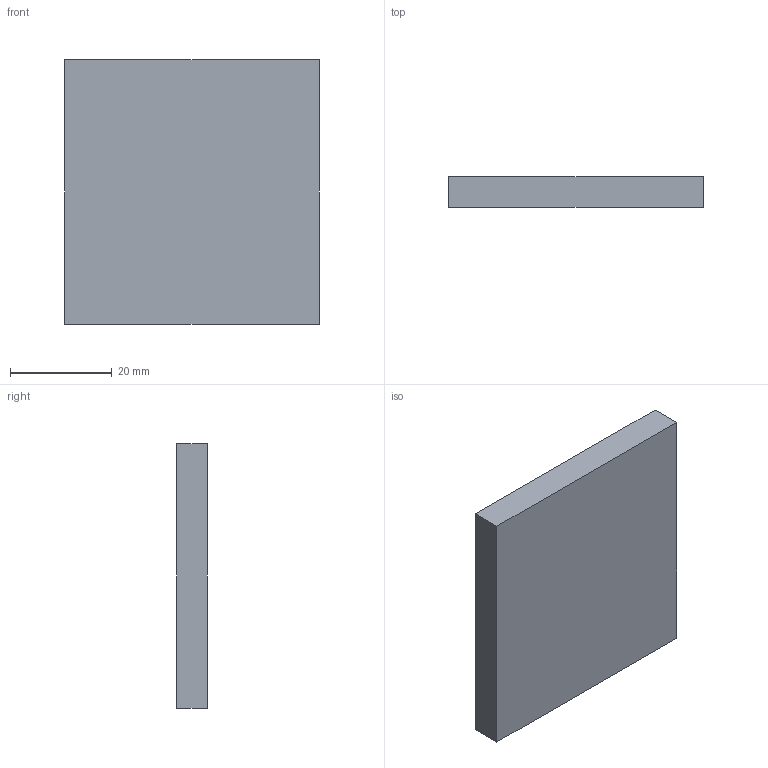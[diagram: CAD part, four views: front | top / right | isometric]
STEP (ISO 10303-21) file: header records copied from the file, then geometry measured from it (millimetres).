
FILE_DESCRIPTION (( 'STEP AP214' ), '1' );
FILE_NAME ('HeatSink-50x52x6.STEP', '2023-07-14T12:33:15', ( '' ), ( '' ), 'SwSTEP 2.0', 'SolidWorks 2023', '' );
FILE_SCHEMA (( 'AUTOMOTIVE_DESIGN' ));
Length unit declared in the file: millimetre
Products named in the file (1): HeatSink-50x52x6
Bounding box: 50 x 6 x 52 mm (x, y, z)
Volume: 15537.2 mm3; surface area: 6549.7 mm2
Topology: 1 solids, 1 shells, 18 faces, 36 edges, 24 vertices
Faces by surface type: plane 10, cylinder 8
Entity records: 499 total; most frequent: DIRECTION 90, CARTESIAN_POINT 79, ORIENTED_EDGE 72, EDGE_CURVE 36, AXIS2_PLACEMENT_3D 35, VERTEX_POINT 24, EDGE_LOOP 22, VECTOR 20
